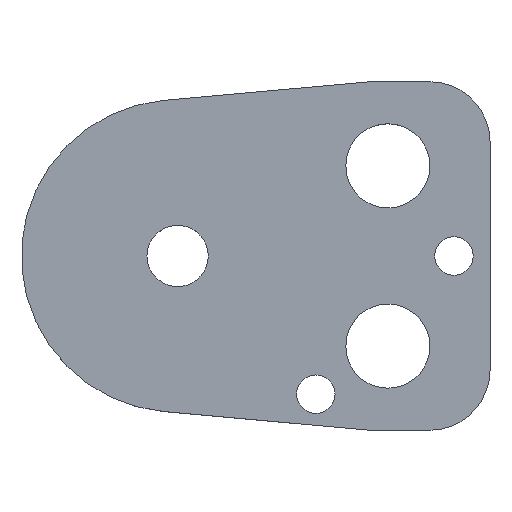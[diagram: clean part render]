
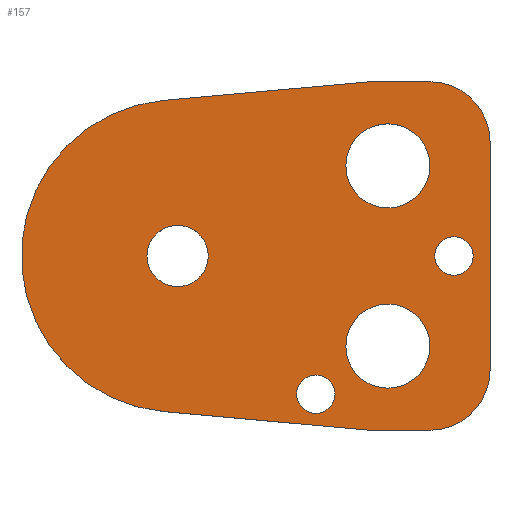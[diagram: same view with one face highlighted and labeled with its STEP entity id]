
A CAD part, top view. The second image highlights one B-rep face of the part: STEP entity #157.
In plain terms, the highlighted planar face has unit normal (0, 0, 1).
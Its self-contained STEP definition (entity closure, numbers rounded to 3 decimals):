
#103=FACE_BOUND('',#207,.T.);
#104=FACE_BOUND('',#208,.T.);
#105=FACE_BOUND('',#209,.T.);
#106=FACE_BOUND('',#210,.T.);
#107=FACE_BOUND('',#211,.T.);
#108=FACE_BOUND('',#212,.T.);
#122=CIRCLE('',#480,10.);
#124=CIRCLE('',#484,10.);
#127=CIRCLE('',#490,26.);
#138=CIRCLE('',#503,3.2);
#139=CIRCLE('',#504,3.2);
#140=CIRCLE('',#505,7.);
#141=CIRCLE('',#506,7.);
#142=CIRCLE('',#507,7.);
#143=CIRCLE('',#508,7.);
#144=CIRCLE('',#509,3.2);
#145=CIRCLE('',#510,3.2);
#146=CIRCLE('',#511,5.1);
#147=CIRCLE('',#512,5.1);
#157=ADVANCED_FACE('',(#103,#104,#105,#106,#107,#108),#174,.T.);
#174=PLANE('',#513);
#207=EDGE_LOOP('',(#273,#274,#275,#276,#277,#278,#279,#280));
#208=EDGE_LOOP('',(#281,#282));
#209=EDGE_LOOP('',(#283,#284));
#210=EDGE_LOOP('',(#285,#286));
#211=EDGE_LOOP('',(#287,#288));
#212=EDGE_LOOP('',(#289,#290));
#273=ORIENTED_EDGE('',*,*,#368,.T.);
#274=ORIENTED_EDGE('',*,*,#372,.T.);
#275=ORIENTED_EDGE('',*,*,#375,.T.);
#276=ORIENTED_EDGE('',*,*,#378,.T.);
#277=ORIENTED_EDGE('',*,*,#381,.T.);
#278=ORIENTED_EDGE('',*,*,#384,.T.);
#279=ORIENTED_EDGE('',*,*,#387,.T.);
#280=ORIENTED_EDGE('',*,*,#390,.T.);
#281=ORIENTED_EDGE('',*,*,#401,.T.);
#282=ORIENTED_EDGE('',*,*,#402,.T.);
#283=ORIENTED_EDGE('',*,*,#403,.T.);
#284=ORIENTED_EDGE('',*,*,#404,.T.);
#285=ORIENTED_EDGE('',*,*,#405,.T.);
#286=ORIENTED_EDGE('',*,*,#406,.T.);
#287=ORIENTED_EDGE('',*,*,#407,.T.);
#288=ORIENTED_EDGE('',*,*,#408,.T.);
#289=ORIENTED_EDGE('',*,*,#409,.T.);
#290=ORIENTED_EDGE('',*,*,#410,.T.);
#332=VERTEX_POINT('',#649);
#333=VERTEX_POINT('',#651);
#336=VERTEX_POINT('',#658);
#338=VERTEX_POINT('',#664);
#340=VERTEX_POINT('',#670);
#342=VERTEX_POINT('',#676);
#344=VERTEX_POINT('',#682);
#346=VERTEX_POINT('',#688);
#357=VERTEX_POINT('',#717);
#358=VERTEX_POINT('',#718);
#359=VERTEX_POINT('',#721);
#360=VERTEX_POINT('',#722);
#361=VERTEX_POINT('',#725);
#362=VERTEX_POINT('',#726);
#363=VERTEX_POINT('',#729);
#364=VERTEX_POINT('',#730);
#365=VERTEX_POINT('',#733);
#366=VERTEX_POINT('',#734);
#368=EDGE_CURVE('',#333,#332,#422,.T.);
#372=EDGE_CURVE('',#332,#336,#426,.T.);
#375=EDGE_CURVE('',#336,#338,#122,.T.);
#378=EDGE_CURVE('',#338,#340,#430,.T.);
#381=EDGE_CURVE('',#340,#342,#124,.T.);
#384=EDGE_CURVE('',#342,#344,#434,.T.);
#387=EDGE_CURVE('',#344,#346,#437,.T.);
#390=EDGE_CURVE('',#346,#333,#127,.T.);
#401=EDGE_CURVE('',#357,#358,#138,.T.);
#402=EDGE_CURVE('',#358,#357,#139,.T.);
#403=EDGE_CURVE('',#359,#360,#140,.T.);
#404=EDGE_CURVE('',#360,#359,#141,.T.);
#405=EDGE_CURVE('',#361,#362,#142,.T.);
#406=EDGE_CURVE('',#362,#361,#143,.T.);
#407=EDGE_CURVE('',#363,#364,#144,.T.);
#408=EDGE_CURVE('',#364,#363,#145,.T.);
#409=EDGE_CURVE('',#365,#366,#146,.T.);
#410=EDGE_CURVE('',#366,#365,#147,.T.);
#422=LINE('',#650,#450);
#426=LINE('',#659,#454);
#430=LINE('',#671,#458);
#434=LINE('',#683,#462);
#437=LINE('',#689,#465);
#450=VECTOR('',#527,1.);
#454=VECTOR('',#533,1.);
#458=VECTOR('',#545,1.);
#462=VECTOR('',#557,1.);
#465=VECTOR('',#562,1.);
#480=AXIS2_PLACEMENT_3D('',#665,#538,#539);
#484=AXIS2_PLACEMENT_3D('',#677,#550,#551);
#490=AXIS2_PLACEMENT_3D('',#693,#568,#569);
#503=AXIS2_PLACEMENT_3D('',#716,#594,#595);
#504=AXIS2_PLACEMENT_3D('',#719,#596,#597);
#505=AXIS2_PLACEMENT_3D('',#720,#598,#599);
#506=AXIS2_PLACEMENT_3D('',#723,#600,#601);
#507=AXIS2_PLACEMENT_3D('',#724,#602,#603);
#508=AXIS2_PLACEMENT_3D('',#727,#604,#605);
#509=AXIS2_PLACEMENT_3D('',#728,#606,#607);
#510=AXIS2_PLACEMENT_3D('',#731,#608,#609);
#511=AXIS2_PLACEMENT_3D('',#732,#610,#611);
#512=AXIS2_PLACEMENT_3D('',#735,#612,#613);
#513=AXIS2_PLACEMENT_3D('',#736,#614,#615);
#527=DIRECTION('',(0.996,-0.09,0.));
#533=DIRECTION('',(1.,0.,0.));
#538=DIRECTION('',(0.,0.,1.));
#539=DIRECTION('',(-0.707,0.707,0.));
#545=DIRECTION('',(0.,1.,0.));
#550=DIRECTION('',(0.,0.,1.));
#551=DIRECTION('',(-0.707,-0.707,0.));
#557=DIRECTION('',(-1.,0.,0.));
#562=DIRECTION('',(-0.996,-0.09,0.));
#568=DIRECTION('',(0.,0.,1.));
#569=DIRECTION('',(1.,0.,0.));
#594=DIRECTION('',(0.,0.,-1.));
#595=DIRECTION('',(-1.,0.,0.));
#596=DIRECTION('',(0.,0.,-1.));
#597=DIRECTION('',(1.,0.,0.));
#598=DIRECTION('',(0.,0.,-1.));
#599=DIRECTION('',(-1.,0.,0.));
#600=DIRECTION('',(0.,0.,-1.));
#601=DIRECTION('',(1.,0.,0.));
#602=DIRECTION('',(0.,0.,-1.));
#603=DIRECTION('',(-1.,0.,0.));
#604=DIRECTION('',(0.,0.,-1.));
#605=DIRECTION('',(1.,0.,0.));
#606=DIRECTION('',(0.,0.,-1.));
#607=DIRECTION('',(-1.,0.,0.));
#608=DIRECTION('',(0.,0.,-1.));
#609=DIRECTION('',(1.,0.,0.));
#610=DIRECTION('',(0.,0.,-1.));
#611=DIRECTION('',(-1.,0.,0.));
#612=DIRECTION('',(0.,0.,-1.));
#613=DIRECTION('',(1.,0.,0.));
#614=DIRECTION('',(0.,0.,1.));
#615=DIRECTION('',(0.996,-0.09,0.));
#649=CARTESIAN_POINT('',(32.,-29.,5.));
#650=CARTESIAN_POINT('',(32.,-29.,5.));
#651=CARTESIAN_POINT('',(-2.342,-25.894,5.));
#658=CARTESIAN_POINT('',(42.,-29.,5.));
#659=CARTESIAN_POINT('',(32.,-29.,5.));
#664=CARTESIAN_POINT('',(52.,-19.,5.));
#665=CARTESIAN_POINT('',(42.,-19.,5.));
#670=CARTESIAN_POINT('',(52.,19.,5.));
#671=CARTESIAN_POINT('',(52.,19.,5.));
#676=CARTESIAN_POINT('',(42.,29.,5.));
#677=CARTESIAN_POINT('',(42.,19.,5.));
#682=CARTESIAN_POINT('',(32.,29.,5.));
#683=CARTESIAN_POINT('',(32.,29.,5.));
#688=CARTESIAN_POINT('',(-2.342,25.894,5.));
#689=CARTESIAN_POINT('',(32.,29.,5.));
#693=CARTESIAN_POINT('',(0.,0.,5.));
#716=CARTESIAN_POINT('',(46.,0.,5.));
#717=CARTESIAN_POINT('',(46.,3.2,5.));
#718=CARTESIAN_POINT('',(46.,-3.2,5.));
#719=CARTESIAN_POINT('',(46.,0.,5.));
#720=CARTESIAN_POINT('',(35.,15.,5.));
#721=CARTESIAN_POINT('',(35.,22.,5.));
#722=CARTESIAN_POINT('',(35.,8.,5.));
#723=CARTESIAN_POINT('',(35.,15.,5.));
#724=CARTESIAN_POINT('',(35.,-15.,5.));
#725=CARTESIAN_POINT('',(35.,-8.,5.));
#726=CARTESIAN_POINT('',(35.,-22.,5.));
#727=CARTESIAN_POINT('',(35.,-15.,5.));
#728=CARTESIAN_POINT('',(23.,-23.,5.));
#729=CARTESIAN_POINT('',(23.,-19.8,5.));
#730=CARTESIAN_POINT('',(23.,-26.2,5.));
#731=CARTESIAN_POINT('',(23.,-23.,5.));
#732=CARTESIAN_POINT('',(0.,0.,5.));
#733=CARTESIAN_POINT('',(0.,5.1,5.));
#734=CARTESIAN_POINT('',(0.,-5.1,5.));
#735=CARTESIAN_POINT('',(0.,0.,5.));
#736=CARTESIAN_POINT('',(-2.342,-25.894,5.));
